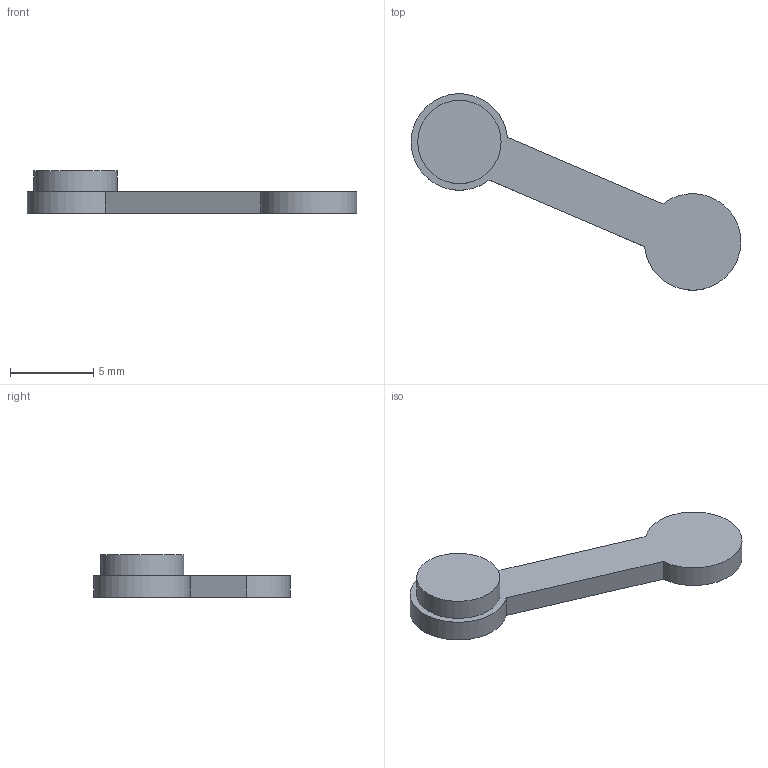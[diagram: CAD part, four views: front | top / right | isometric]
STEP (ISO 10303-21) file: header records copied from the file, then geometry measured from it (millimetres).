
FILE_DESCRIPTION(('Open CASCADE Model'),'2;1');
FILE_NAME('Open CASCADE Shape Model','2026-09-04T21:47:03',('Author'),( 'Open CASCADE'),'Open CASCADE STEP processor 7.7','Open CASCADE 7.7' ,'Unknown');
FILE_SCHEMA(('AUTOMOTIVE_DESIGN { 1 0 10303 214 1 1 1 1 }'));
Length unit declared in the file: millimetre
Products named in the file (1): Open CASCADE STEP translator 7.7 5
Bounding box: 19.8 x 11.79 x 2.55 mm (x, y, z)
Volume: 109.7 mm3; surface area: 259.8 mm2
Topology: 1 solids, 1 shells, 10 faces, 18 edges, 12 vertices
Faces by surface type: plane 6, cylinder 4
Full cylindrical faces by diameter (mm): 5 x1, 5.3 x1
Entity records: 492 total; most frequent: CARTESIAN_POINT 97, DIRECTION 74, ORIENTED_EDGE 36, PCURVE 36, DEFINITIONAL_REPRESENTATION 36, LINE 30, VECTOR 30, AXIS2_PLACEMENT_3D 19
